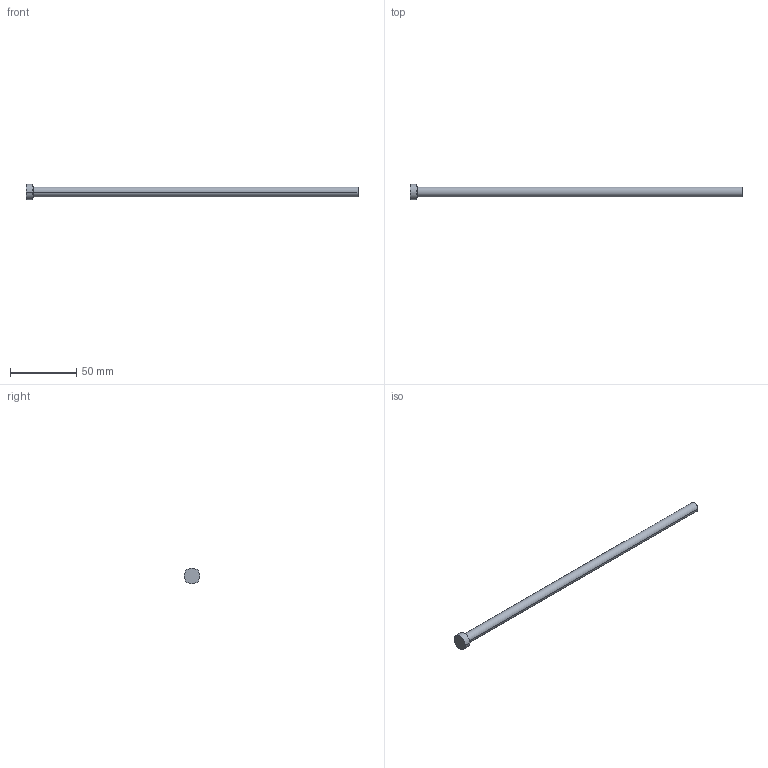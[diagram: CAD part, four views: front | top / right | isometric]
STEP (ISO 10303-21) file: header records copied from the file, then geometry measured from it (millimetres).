
FILE_DESCRIPTION (( 'STEP AP214' ), '1' );
FILE_NAME ('A-7,5x250.STEP', '2020-05-29T15:45:09', ( 'August' ), ( '' ), 'SwSTEP 2.0', 'SolidWorks 2018', '' );
FILE_SCHEMA (( 'AUTOMOTIVE_DESIGN' ));
Length unit declared in the file: millimetre
Products named in the file (1): A-7,5x250
Bounding box: 250 x 12 x 12 mm (x, y, z)
Volume: 11390.6 mm3; surface area: 6182.4 mm2
Topology: 1 solids, 1 shells, 9 faces, 16 edges, 10 vertices
Faces by surface type: cylinder 4, plane 3, torus 2
Entity records: 260 total; most frequent: DIRECTION 48, CARTESIAN_POINT 36, ORIENTED_EDGE 32, AXIS2_PLACEMENT_3D 22, EDGE_CURVE 16, CIRCLE 12, EDGE_LOOP 10, VERTEX_POINT 10
